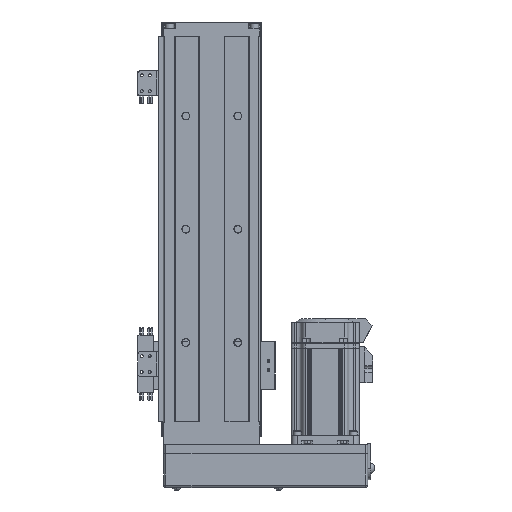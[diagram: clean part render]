
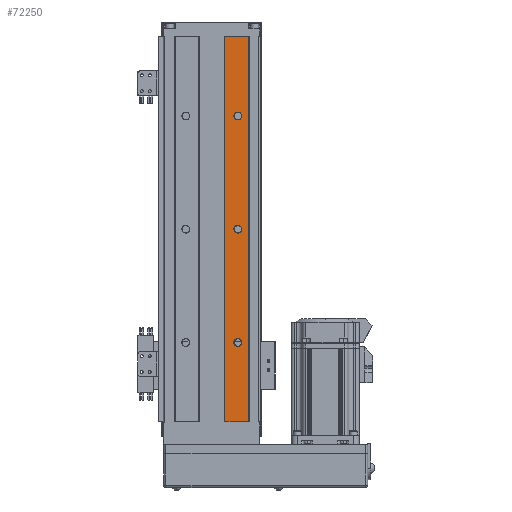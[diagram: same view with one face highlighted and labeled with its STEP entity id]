
A CAD part, front view. The second image highlights one B-rep face of the part: STEP entity #72250.
In plain terms, the highlighted planar face has unit normal (0, -1, 0).
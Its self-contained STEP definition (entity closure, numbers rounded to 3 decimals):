
#1215 = EDGE_LOOP ( 'NONE', ( #139028, #144577 ) ) ;
#2142 = VERTEX_POINT ( 'NONE', #16154 ) ;
#2644 = VECTOR ( 'NONE', #19475, 1000. ) ;
#3382 = DIRECTION ( 'NONE',  ( 0., 0., -1. ) ) ;
#4610 = EDGE_LOOP ( 'NONE', ( #37129, #104712 ) ) ;
#5942 = EDGE_CURVE ( 'NONE', #42590, #24842, #57746, .T. ) ;
#9111 = LINE ( 'NONE', #139067, #37744 ) ;
#9746 = CARTESIAN_POINT ( 'NONE',  ( 23., 0., 73.5 ) ) ;
#13498 = LINE ( 'NONE', #59771, #44089 ) ;
#16154 = CARTESIAN_POINT ( 'NONE',  ( 32.5, 0., 0. ) ) ;
#17658 = CARTESIAN_POINT ( 'NONE',  ( 11.5, 0., 340. ) ) ;
#17787 = CIRCLE ( 'NONE', #130138, 3.5 ) ;
#18772 = CIRCLE ( 'NONE', #66363, 3.5 ) ;
#19475 = DIRECTION ( 'NONE',  ( 0., 0., -1. ) ) ;
#23651 = CARTESIAN_POINT ( 'NONE',  ( 32.5, 0., 340. ) ) ;
#24842 = VERTEX_POINT ( 'NONE', #17658 ) ;
#25480 = AXIS2_PLACEMENT_3D ( 'NONE', #39527, #144522, #63656 ) ;
#26659 = CARTESIAN_POINT ( 'NONE',  ( 23., 0., 66.5 ) ) ;
#27185 = VECTOR ( 'NONE', #145049, 1000. ) ;
#30594 = CARTESIAN_POINT ( 'NONE',  ( 23., 0., 70. ) ) ;
#31515 = CARTESIAN_POINT ( 'NONE',  ( 32.5, 0., 340. ) ) ;
#32570 = CARTESIAN_POINT ( 'NONE',  ( 23., 0., 166.5 ) ) ;
#33221 = LINE ( 'NONE', #31515, #2644 ) ;
#36310 = VERTEX_POINT ( 'NONE', #32570 ) ;
#37129 = ORIENTED_EDGE ( 'NONE', *, *, #52793, .T. ) ;
#37744 = VECTOR ( 'NONE', #47682, 1000. ) ;
#39527 = CARTESIAN_POINT ( 'NONE',  ( 23., 0., 170. ) ) ;
#39895 = CARTESIAN_POINT ( 'NONE',  ( 43., 0., 340. ) ) ;
#40895 = DIRECTION ( 'NONE',  ( 0., 0., -1. ) ) ;
#42590 = VERTEX_POINT ( 'NONE', #23651 ) ;
#42635 = EDGE_CURVE ( 'NONE', #36310, #93692, #17787, .T. ) ;
#42950 = VERTEX_POINT ( 'NONE', #76281 ) ;
#43457 = CIRCLE ( 'NONE', #25480, 3.5 ) ;
#44089 = VECTOR ( 'NONE', #51322, 1000. ) ;
#47258 = DIRECTION ( 'NONE',  ( 0., 1., 0. ) ) ;
#47682 = DIRECTION ( 'NONE',  ( -1., 0., 0. ) ) ;
#51322 = DIRECTION ( 'NONE',  ( 0., 0., 1. ) ) ;
#52793 = EDGE_CURVE ( 'NONE', #114221, #145194, #83012, .T. ) ;
#57746 = LINE ( 'NONE', #75226, #27185 ) ;
#58221 = VERTEX_POINT ( 'NONE', #66966 ) ;
#58499 = DIRECTION ( 'NONE',  ( 0., 1., 0. ) ) ;
#59771 = CARTESIAN_POINT ( 'NONE',  ( 11.5, 0., 340. ) ) ;
#60252 = DIRECTION ( 'NONE',  ( 0., 0., -1. ) ) ;
#60321 = EDGE_CURVE ( 'NONE', #90566, #42950, #84898, .T. ) ;
#62805 = EDGE_CURVE ( 'NONE', #58221, #24842, #13498, .T. ) ;
#63376 = EDGE_CURVE ( 'NONE', #93692, #36310, #43457, .T. ) ;
#63380 = DIRECTION ( 'NONE',  ( 0., 0., -1. ) ) ;
#63656 = DIRECTION ( 'NONE',  ( 0., 0., -1. ) ) ;
#64516 = PLANE ( 'NONE',  #121831 ) ;
#65246 = DIRECTION ( 'NONE',  ( 0., 1., 0. ) ) ;
#65854 = EDGE_CURVE ( 'NONE', #145194, #114221, #18772, .T. ) ;
#66363 = AXIS2_PLACEMENT_3D ( 'NONE', #30594, #65246, #75319 ) ;
#66966 = CARTESIAN_POINT ( 'NONE',  ( 11.5, 0., 0. ) ) ;
#67022 = EDGE_CURVE ( 'NONE', #42950, #90566, #85354, .T. ) ;
#72250 = ADVANCED_FACE ( 'NONE', ( #77310, #145630, #86283, #138442 ), #64516, .T. ) ;
#75226 = CARTESIAN_POINT ( 'NONE',  ( 43., 0., 340. ) ) ;
#75319 = DIRECTION ( 'NONE',  ( 0., 0., -1. ) ) ;
#76281 = CARTESIAN_POINT ( 'NONE',  ( 23., 0., 273.5 ) ) ;
#77224 = EDGE_LOOP ( 'NONE', ( #123883, #80921, #123115, #102097 ) ) ;
#77310 = FACE_OUTER_BOUND ( 'NONE', #77224, .T. ) ;
#78245 = EDGE_CURVE ( 'NONE', #42590, #2142, #33221, .T. ) ;
#80921 = ORIENTED_EDGE ( 'NONE', *, *, #78245, .F. ) ;
#81901 = CARTESIAN_POINT ( 'NONE',  ( 23., 0., 266.5 ) ) ;
#82229 = CARTESIAN_POINT ( 'NONE',  ( 23., 0., 270. ) ) ;
#83006 = EDGE_CURVE ( 'NONE', #2142, #58221, #9111, .T. ) ;
#83012 = CIRCLE ( 'NONE', #100150, 3.5 ) ;
#84530 = CARTESIAN_POINT ( 'NONE',  ( 23., 0., 173.5 ) ) ;
#84898 = CIRCLE ( 'NONE', #94435, 3.5 ) ;
#85354 = CIRCLE ( 'NONE', #146510, 3.5 ) ;
#85653 = DIRECTION ( 'NONE',  ( 0., -1., 0. ) ) ;
#86283 = FACE_BOUND ( 'NONE', #145448, .T. ) ;
#90566 = VERTEX_POINT ( 'NONE', #81901 ) ;
#93692 = VERTEX_POINT ( 'NONE', #84530 ) ;
#94435 = AXIS2_PLACEMENT_3D ( 'NONE', #127839, #58499, #137855 ) ;
#99092 = DIRECTION ( 'NONE',  ( 0., 1., 0. ) ) ;
#100150 = AXIS2_PLACEMENT_3D ( 'NONE', #140774, #99092, #63380 ) ;
#102097 = ORIENTED_EDGE ( 'NONE', *, *, #62805, .F. ) ;
#104712 = ORIENTED_EDGE ( 'NONE', *, *, #65854, .T. ) ;
#104920 = ORIENTED_EDGE ( 'NONE', *, *, #63376, .T. ) ;
#105901 = DIRECTION ( 'NONE',  ( 0., 1., 0. ) ) ;
#114221 = VERTEX_POINT ( 'NONE', #26659 ) ;
#121831 = AXIS2_PLACEMENT_3D ( 'NONE', #39895, #85653, #40895 ) ;
#123115 = ORIENTED_EDGE ( 'NONE', *, *, #5942, .T. ) ;
#123883 = ORIENTED_EDGE ( 'NONE', *, *, #83006, .F. ) ;
#126124 = ORIENTED_EDGE ( 'NONE', *, *, #42635, .T. ) ;
#127839 = CARTESIAN_POINT ( 'NONE',  ( 23., 0., 270. ) ) ;
#130138 = AXIS2_PLACEMENT_3D ( 'NONE', #140150, #47258, #60252 ) ;
#137855 = DIRECTION ( 'NONE',  ( 0., 0., -1. ) ) ;
#138442 = FACE_BOUND ( 'NONE', #4610, .T. ) ;
#139028 = ORIENTED_EDGE ( 'NONE', *, *, #60321, .T. ) ;
#139067 = CARTESIAN_POINT ( 'NONE',  ( 43., 0., 0. ) ) ;
#140150 = CARTESIAN_POINT ( 'NONE',  ( 23., 0., 170. ) ) ;
#140774 = CARTESIAN_POINT ( 'NONE',  ( 23., 0., 70. ) ) ;
#144522 = DIRECTION ( 'NONE',  ( 0., 1., 0. ) ) ;
#144577 = ORIENTED_EDGE ( 'NONE', *, *, #67022, .T. ) ;
#145049 = DIRECTION ( 'NONE',  ( -1., 0., 0. ) ) ;
#145194 = VERTEX_POINT ( 'NONE', #9746 ) ;
#145448 = EDGE_LOOP ( 'NONE', ( #126124, #104920 ) ) ;
#145630 = FACE_BOUND ( 'NONE', #1215, .T. ) ;
#146510 = AXIS2_PLACEMENT_3D ( 'NONE', #82229, #105901, #3382 ) ;
